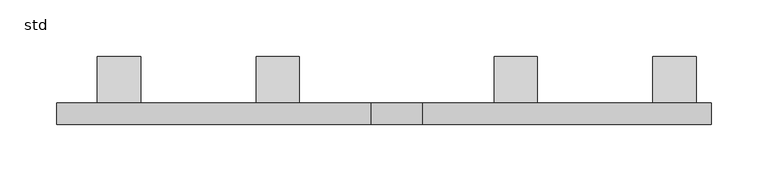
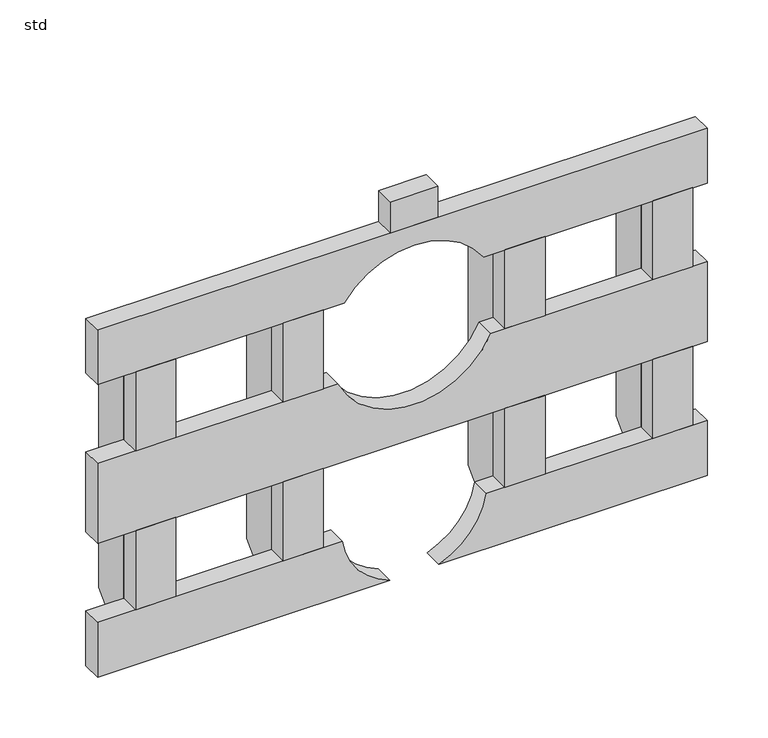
"""IFC4 building model written with IfcOpenShell, lengths in millimetres: unitary equipment geometry, Z_ME_UN_Aquacell_NG_Lateral_Side_Plate_Wavin_(nested) : std."""

from ifc_helpers import new_model, si_unit, frame, origin, place, context, project, spatial, polyline, circle_curve, outline, extrude, source, transform, mapped, element, save
from ifc_brep_helpers import plane_surface, revolved_surface, advanced_brep


def std_94b0eaad(model_context):
    return source(origin(), model_context, "Body", "SolidModel", [
        extrude(outline(polyline([(214.0, 0.0), (176.0, 0.0), (176.0, 19.0), (214.0, 19.0), (214.0, 0.0)])), frame((0.0, 0.0, 90.0), z_axis=(0.0, 0.0, 1.0), x_axis=(1.0, 0.0, 0.0)), (0.0, 0.0, 1.0), 79.0),
        extrude(outline(polyline([(214.0, 0.0), (176.0, 0.0), (176.0, 19.0), (214.0, 19.0), (214.0, 0.0)])), frame((0.0, 0.0, 249.0), z_axis=(0.0, 0.0, 1.0), x_axis=(1.0, 0.0, 0.0)), (0.0, 0.0, 1.0), 79.0),
        extrude(outline(polyline([(424.0, 0.0), (386.0, 0.0), (386.0, 19.0), (424.0, 19.0), (424.0, 0.0)])), frame((0.0, 0.0, 90.0), z_axis=(0.0, 0.0, 1.0), x_axis=(1.0, 0.0, 0.0)), (0.0, 0.0, 1.0), 79.0),
        extrude(outline(polyline([(424.0, 0.0), (386.0, 0.0), (386.0, 19.0), (424.0, 19.0), (424.0, 0.0)])), frame((0.0, 0.0, 249.0), z_axis=(0.0, 0.0, 1.0), x_axis=(1.0, 0.0, 0.0)), (0.0, 0.0, 1.0), 79.0),
        extrude(outline(polyline([(19.0, 35.0), (19.0, 367.0), (60.0, 326.0), (60.0, 76.0), (19.0, 35.0)])), frame((526.0, 0.0, 0.0), z_axis=(1.0, 0.0, 0.0), x_axis=(0.0, 1.0, 0.0)), (0.0, 0.0, 1.0), 38.0),
        extrude(outline(polyline([(19.0, 35.0), (19.0, 367.0), (60.0, 326.0), (60.0, 76.0), (19.0, 35.0)])), frame((386.0, 0.0, 0.0), z_axis=(1.0, 0.0, 0.0), x_axis=(0.0, 1.0, 0.0)), (0.0, 0.0, 1.0), 38.0),
        extrude(outline(polyline([(19.0, 35.0), (19.0, 367.0), (60.0, 326.0), (60.0, 76.0), (19.0, 35.0)])), frame((176.0, 0.0, 0.0), z_axis=(1.0, 0.0, 0.0), x_axis=(0.0, 1.0, 0.0)), (0.0, 0.0, 1.0), 38.0),
        extrude(outline(polyline([(19.0, 35.0), (19.0, 367.0), (60.0, 326.0), (60.0, 76.0), (19.0, 35.0)])), frame((36.0, 0.0, 0.0), z_axis=(1.0, 0.0, 0.0), x_axis=(0.0, 1.0, 0.0)), (0.0, 0.0, 1.0), 38.0),
        extrude(outline(polyline([(564.0, 0.0), (526.0, 0.0), (526.0, 19.0), (564.0, 19.0), (564.0, 0.0)])), frame((0.0, 0.0, 90.0), z_axis=(0.0, 0.0, 1.0), x_axis=(1.0, 0.0, 0.0)), (0.0, 0.0, 1.0), 79.0),
        extrude(outline(polyline([(564.0, 0.0), (526.0, 0.0), (526.0, 19.0), (564.0, 19.0), (564.0, 0.0)])), frame((0.0, 0.0, 249.0), z_axis=(0.0, 0.0, 1.0), x_axis=(1.0, 0.0, 0.0)), (0.0, 0.0, 1.0), 79.0),
        extrude(outline(polyline([(74.0, 0.0), (36.0, 0.0), (36.0, 19.0), (74.0, 19.0), (74.0, 0.0)])), frame((0.0, 0.0, 90.0), z_axis=(0.0, 0.0, 1.0), x_axis=(1.0, 0.0, 0.0)), (0.0, 0.0, 1.0), 79.0),
        extrude(outline(polyline([(74.0, 0.0), (36.0, 0.0), (36.0, 19.0), (74.0, 19.0), (74.0, 0.0)])), frame((0.0, 0.0, 249.0), z_axis=(0.0, 0.0, 1.0), x_axis=(1.0, 0.0, 0.0)), (0.0, 0.0, 1.0), 79.0),
        extrude(outline(polyline([(322.5, 19.0), (322.5, 0.0), (277.5, 0.0), (277.5, 19.0), (322.5, 19.0)])), frame((0.0, 0.0, 383.0), z_axis=(0.0, 0.0, 1.0), x_axis=(1.0, 0.0, 0.0)), (0.0, 0.0, 1.0), 31.0),
        advanced_brep(
        [(577.5, 19.0, 383.0), (577.5, 19.0, 328.0), (366.1437828, 19.0, 328.0), (233.8562172, 19.0, 328.0), (0.0, 19.0, 328.0), (0.0, 19.0, 383.0), (577.5, 0.0, 383.0), (0.0, 0.0, 383.0), (0.0, 0.0, 328.0), (233.8562172, 0.0, 328.0), (366.1437828, 0.0, 328.0), (577.5, 0.0, 328.0)],
        [
            (0, 1),
            (1, 2),
            (2, 3, circle_curve(frame((300.0, 19.0, 283.0), z_axis=(0.0, -1.0, 0.0), x_axis=(1.0, 0.0, 0.0)), 80.0)),
            (3, 4),
            (4, 5),
            (5, 0),
            (6, 7),
            (7, 8),
            (8, 9),
            (9, 10, circle_curve(frame((300.0, 0.0, 283.0), z_axis=(0.0, 1.0, 0.0), x_axis=(1.0, 0.0, 0.0)), 80.0)),
            (10, 11),
            (11, 6),
            (5, 7),
            (6, 0),
            (8, 4),
            (3, 9),
            (1, 11),
            (10, 2),
        ],
        [
            plane_surface(frame((0.0, 19.0, 90.0), z_axis=(0.0, 1.0, 0.0), x_axis=(1.0, 0.0, 0.0))),
            plane_surface(frame((0.0, 0.0, 90.0), z_axis=(0.0, -1.0, 0.0), x_axis=(-1.0, 0.0, 0.0))),
            plane_surface(frame((577.5, 0.0, 383.0), z_axis=(0.0, 0.0, 1.0), x_axis=(0.0, 1.0, 0.0))),
            plane_surface(frame((0.0, 0.0, 328.0), z_axis=(0.0, 0.0, -1.0), x_axis=(0.0, 1.0, 0.0))),
            plane_surface(frame((0.0, 0.0, 383.0), z_axis=(-1.0, 0.0, 0.0), x_axis=(0.0, 1.0, 0.0))),
            plane_surface(frame((577.5, 0.0, 328.0), z_axis=(1.0, 0.0, 0.0), x_axis=(0.0, 1.0, 0.0))),
            revolved_surface(polyline([(380.0, 0.0, 283.0), (380.0, 19.0, 283.0)]), (300.0, 19.0, 283.0), (0.0, -1.0, 0.0)),
        ],
        [
            (0, [[1, 2, 3, 4, 5, 6]]),
            (1, [[7, 8, 9, 10, 11, 12]]),
            (2, [[-6, 13, -7, 14]]),
            (3, [[15, -4, 16, -9]]),
            (3, [[17, -11, 18, -2]]),
            (4, [[-5, -15, -8, -13]]),
            (5, [[-1, -14, -12, -17]]),
            (6, [[-3, -18, -10, -16]]),
        ],
    ),
        advanced_brep(
        [(577.5, 19.0, 90.0), (577.5, 19.0, 35.0), (323.1516738, 19.0, 35.0), (368.2715168, 19.0, 90.0), (577.5, 0.0, 35.0), (577.5, 0.0, 90.0), (368.2715168, 0.0, 90.0), (323.1516738, 0.0, 35.0)],
        [
            (0, 1),
            (1, 2),
            (2, 3, circle_curve(frame((300.0, 19.0, 100.0), z_axis=(0.0, -1.0, 0.0), x_axis=(1.0, 0.0, 0.0)), 69.0)),
            (3, 0),
            (4, 5),
            (5, 6),
            (6, 7, circle_curve(frame((300.0, 0.0, 100.0), z_axis=(0.0, 1.0, 0.0), x_axis=(1.0, 0.0, 0.0)), 69.0)),
            (7, 4),
            (5, 0),
            (3, 6),
            (1, 4),
            (7, 2),
        ],
        [
            plane_surface(frame((0.0, 19.0, 90.0), z_axis=(0.0, 1.0, 0.0), x_axis=(1.0, 0.0, 0.0))),
            plane_surface(frame((0.0, 0.0, 90.0), z_axis=(0.0, -1.0, 0.0), x_axis=(-1.0, 0.0, 0.0))),
            plane_surface(frame((577.5, 0.0, 90.0), z_axis=(0.0, 0.0, 1.0), x_axis=(0.0, 1.0, 0.0))),
            plane_surface(frame((0.0, 0.0, 35.0), z_axis=(0.0, 0.0, -1.0), x_axis=(0.0, 1.0, 0.0))),
            plane_surface(frame((577.5, 0.0, 35.0), z_axis=(1.0, 0.0, 0.0), x_axis=(0.0, 1.0, 0.0))),
            revolved_surface(polyline([(369.0, 0.0, 100.0), (369.0, 19.0, 100.0)]), (300.0, 19.0, 100.0), (0.0, -1.0, 0.0)),
        ],
        [
            (0, [[1, 2, 3, 4]]),
            (1, [[5, 6, 7, 8]]),
            (2, [[9, -4, 10, -6]]),
            (3, [[11, -8, 12, -2]]),
            (4, [[-1, -9, -5, -11]]),
            (5, [[-3, -12, -7, -10]]),
        ],
    ),
        advanced_brep(
        [(0.0, 19.0, 35.0), (0.0, 19.0, 90.0), (231.7284832, 19.0, 90.0), (276.8483262, 19.0, 35.0), (0.0, 0.0, 90.0), (0.0, 0.0, 35.0), (276.8483262, 0.0, 35.0), (231.7284832, 0.0, 90.0)],
        [
            (0, 1),
            (1, 2),
            (2, 3, circle_curve(frame((300.0, 19.0, 100.0), z_axis=(0.0, -1.0, 0.0), x_axis=(1.0, 0.0, 0.0)), 69.0)),
            (3, 0),
            (4, 5),
            (5, 6),
            (6, 7, circle_curve(frame((300.0, 0.0, 100.0), z_axis=(0.0, 1.0, 0.0), x_axis=(1.0, 0.0, 0.0)), 69.0)),
            (7, 4),
            (1, 4),
            (7, 2),
            (5, 0),
            (3, 6),
        ],
        [
            plane_surface(frame((0.0, 19.0, 90.0), z_axis=(0.0, 1.0, 0.0), x_axis=(1.0, 0.0, 0.0))),
            plane_surface(frame((0.0, 0.0, 90.0), z_axis=(0.0, -1.0, 0.0), x_axis=(-1.0, 0.0, 0.0))),
            plane_surface(frame((577.5, 0.0, 90.0), z_axis=(0.0, 0.0, 1.0), x_axis=(0.0, 1.0, 0.0))),
            plane_surface(frame((0.0, 0.0, 35.0), z_axis=(0.0, 0.0, -1.0), x_axis=(0.0, 1.0, 0.0))),
            plane_surface(frame((0.0, 0.0, 90.0), z_axis=(-1.0, 0.0, 0.0), x_axis=(0.0, 1.0, 0.0))),
            revolved_surface(polyline([(369.0, 0.0, 100.0), (369.0, 19.0, 100.0)]), (300.0, 19.0, 100.0), (0.0, -1.0, 0.0)),
        ],
        [
            (0, [[1, 2, 3, 4]]),
            (1, [[5, 6, 7, 8]]),
            (2, [[9, -8, 10, -2]]),
            (3, [[11, -4, 12, -6]]),
            (4, [[-1, -11, -5, -9]]),
            (5, [[-3, -10, -7, -12]]),
        ],
    ),
        advanced_brep(
        [(577.5, 19.0, 249.0), (577.5, 19.0, 169.0), (300.0, 19.0, 169.0), (0.0, 19.0, 169.0), (0.0, 19.0, 249.0), (227.584532, 19.0, 249.0), (372.415468, 19.0, 249.0), (0.0, 0.0, 249.0), (0.0, 0.0, 169.0), (300.0, 0.0, 169.0), (577.5, 0.0, 169.0), (577.5, 0.0, 249.0), (372.415468, 0.0, 249.0), (227.584532, 0.0, 249.0)],
        [
            (0, 1),
            (1, 2),
            (2, 3),
            (3, 4),
            (4, 5),
            (5, 6, circle_curve(frame((300.0, 19.0, 283.0), z_axis=(0.0, -1.0, 0.0), x_axis=(1.0, 0.0, 0.0)), 80.0)),
            (6, 0),
            (7, 8),
            (8, 9),
            (9, 10),
            (10, 11),
            (11, 12),
            (12, 13, circle_curve(frame((300.0, 0.0, 283.0), z_axis=(0.0, 1.0, 0.0), x_axis=(1.0, 0.0, 0.0)), 80.0)),
            (13, 7),
            (11, 0),
            (6, 12),
            (4, 7),
            (13, 5),
            (8, 3),
            (1, 10),
        ],
        [
            plane_surface(frame((0.0, 19.0, 90.0), z_axis=(0.0, 1.0, 0.0), x_axis=(1.0, 0.0, 0.0))),
            plane_surface(frame((0.0, 0.0, 90.0), z_axis=(0.0, -1.0, 0.0), x_axis=(-1.0, 0.0, 0.0))),
            plane_surface(frame((577.5, 0.0, 249.0), z_axis=(0.0, 0.0, 1.0), x_axis=(0.0, 1.0, 0.0))),
            plane_surface(frame((0.0, 0.0, 169.0), z_axis=(0.0, 0.0, -1.0), x_axis=(0.0, 1.0, 0.0))),
            plane_surface(frame((0.0, 0.0, 249.0), z_axis=(-1.0, 0.0, 0.0), x_axis=(0.0, 1.0, 0.0))),
            plane_surface(frame((577.5, 0.0, 169.0), z_axis=(1.0, 0.0, 0.0), x_axis=(0.0, 1.0, 0.0))),
            revolved_surface(polyline([(380.0, 0.0, 283.0), (380.0, 19.0, 283.0)]), (300.0, 19.0, 283.0), (0.0, -1.0, 0.0)),
        ],
        [
            (0, [[1, 2, 3, 4, 5, 6, 7]]),
            (1, [[8, 9, 10, 11, 12, 13, 14]]),
            (2, [[15, -7, 16, -12]]),
            (2, [[17, -14, 18, -5]]),
            (3, [[19, -3, -2, 20, -10, -9]]),
            (4, [[-4, -19, -8, -17]]),
            (5, [[-1, -15, -11, -20]]),
            (6, [[-6, -18, -13, -16]]),
        ],
    ),
    ])


if __name__ == "__main__":
    model = new_model("IFC4")
    model_context = context("Model", 3, world=origin())
    ifc_project = project(units=[si_unit("LENGTHUNIT", "METRE", prefix="MILLI")], contexts=[model_context])
    site = spatial("IfcSite", under=ifc_project)
    building = spatial("IfcBuilding", under=site)
    placement = place(None, origin())
    std_shape = std_94b0eaad(model_context)
    element("IfcUnitaryEquipment", 1, ObjectType="Z_ME_UN_Aquacell_NG_Lateral_Side_Plate_Wavin_(nested) : std", at=placement, inside=building, context=model_context, shape_type="MappedRepresentation", body=[
        mapped(std_shape, transform((0.0, 0.0, 0.0), x_axis=(1.0, 0.0, 0.0), y_axis=(0.0, 1.0, 0.0), z_axis=(0.0, 0.0, 1.0))),
    ])
    save(model, "model.ifc")
